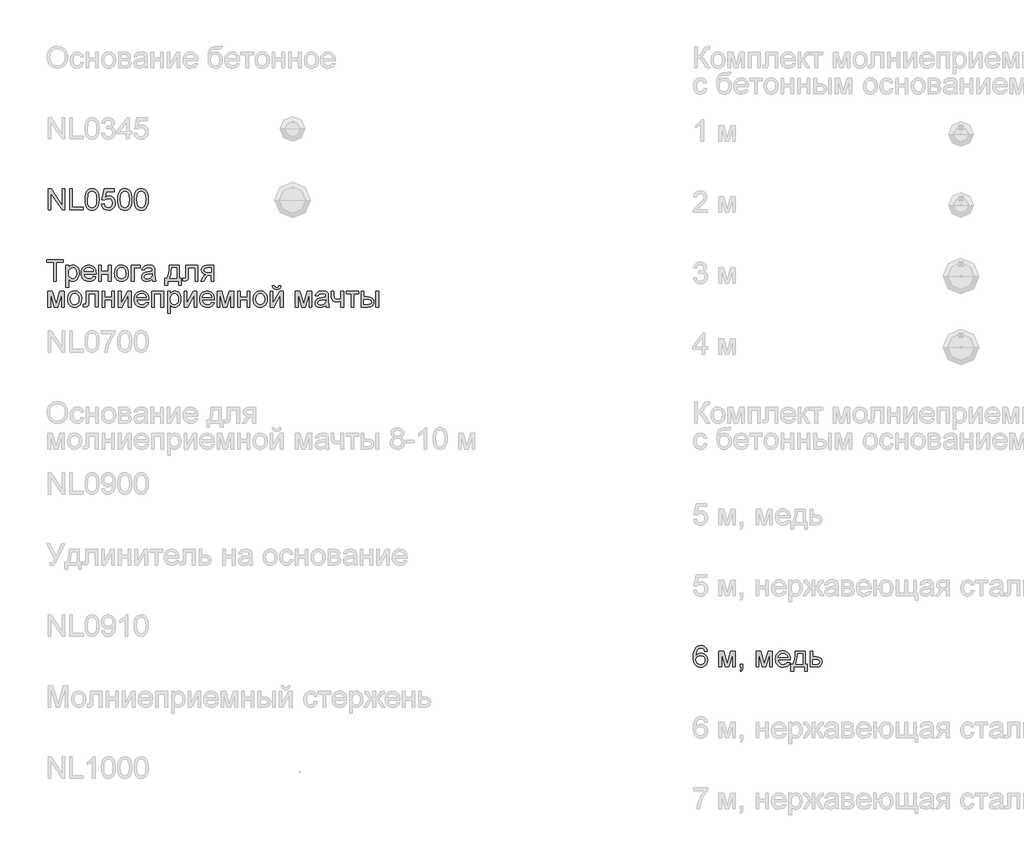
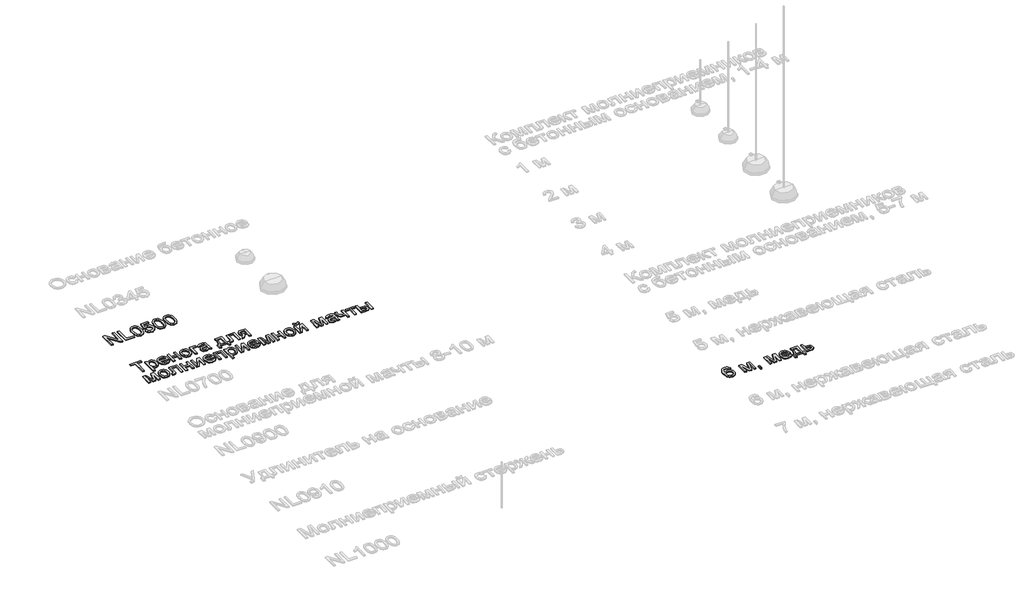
# One storey, part 55 of 124: 3 proxies.
"""IFC4 building model written with IfcOpenShell, lengths in millimetres."""

from ifc_helpers import new_model, si_unit, origin, origin_with_axes, place, context, project, spatial, polyline, outline, extrude, element, save

model = new_model("IFC4")

# Units and contexts
model_context = context("Model", 3, world=origin())
ifc_project = project(units=[si_unit("LENGTHUNIT", "METRE", prefix="MILLI")], contexts=[model_context])

# Site, building, storey
site = spatial("IfcSite", under=ifc_project)
building = spatial("IfcBuilding", under=site)
storey = spatial("IfcBuildingStorey", under=building, Name="Этаж 01", Elevation=0.0)

# Proxies
placement = place(None, origin())
element("IfcBuildingElementProxy", 1, Name="300", ObjectType="300", at=placement, inside=storey, context=model_context, shape_type="SweptSolid", body=[
    extrude(outline(polyline([(1299.8220677, -57074.498362), (1299.8220677, -56773.1294316), (1340.1419344, -56773.1294316), (1497.5954283, -57011.8848464), (1497.5954283, -56773.1294316), (1535.2665446, -56773.1294316), (1535.2665446, -57074.498362), (1494.9466779, -57074.498362), (1337.493184, -56835.6693707), (1337.493184, -57074.498362), (1299.8220677, -57074.498362)])), origin_with_axes(), (0.0, 0.0, 1.0), 20.0),
    extrude(outline(polyline([(1601.1909981, -57074.498362), (1601.1909981, -56773.1294316), (1638.8621144, -56773.1294316), (1638.8621144, -57036.8272457), (1789.5465797, -57036.8272457), (1789.5465797, -57074.498362), (1601.1909981, -57074.498362)])), origin_with_axes(), (0.0, 0.0, 1.0), 20.0),
    extrude(outline(polyline([(1817.7999169, -56926.2419179), (1820.5682289, -56878.0033913), (1828.873165, -56839.5321317), (1842.6319516, -56810.2395278), (1861.7618153, -56789.5369685), (1886.400712, -56777.2313158), (1916.6865972, -56773.1294316), (1939.8999511, -56775.5574527), (1960.6852838, -56782.8415162), (1978.0677081, -56794.6965135), (1991.0723366, -56810.8373361), (2000.8947859, -56831.1260281), (2008.7306724, -56855.4246339), (2013.8626262, -56886.2807362), (2015.5732775, -56926.2419179), (2012.8325566, -56974.2045331), (2004.6103941, -57012.5838222), (1990.9343809, -57041.9040172), (1971.8321083, -57062.68935), (1947.1380294, -57075.0777761), (1916.6865972, -57079.2072515), (1895.9380527, -57077.4138268), (1877.5439529, -57072.0335526), (1861.5042979, -57063.066429), (1847.8190877, -57050.5124559), (1834.6857005, -57027.8187353), (1825.3047096, -56999.5424055), (1819.6761151, -56965.6834664), (1817.7999169, -56926.2419179)]), holes=[polyline([(1855.4710332, -56926.1683415), (1859.8856172, -56985.4249339), (1865.4038471, -57005.6929326), (1873.129369, -57019.7207329), (1892.8478439, -57036.0822847), (1916.6865972, -57041.5361352), (1940.5253505, -57036.0638906), (1960.2438254, -57019.6471565), (1967.9693473, -57005.5963636), (1973.4875773, -56985.3329634), (1977.9021612, -56926.1683415), (1973.6347301, -56868.2453214), (1968.3004411, -56848.0440013), (1960.8324366, -56833.682808), (1941.1507499, -56816.5211129), (1916.2451388, -56810.8005479), (1892.6639029, -56815.8405312), (1873.7179802, -56830.9604812), (1865.7349409, -56846.595466), (1860.0327699, -56867.6751043), (1855.4710332, -56926.1683415)])]), origin_with_axes(), (0.0, 0.0, 1.0), 20.0),
    extrude(outline(polyline([(2048.5355043, -56994.4472399), (2086.2066206, -56989.7383503), (2093.1228021, -57012.353896), (2105.1893315, -57028.5499008), (2122.3510266, -57038.2895766), (2144.552705, -57041.5361352), (2171.5552435, -57037.0203837), (2191.7887532, -57023.4731293), (2204.4254997, -57002.4578703), (2208.6377486, -56975.5381053), (2204.6922142, -56950.1910358), (2192.855611, -56930.8036547), (2173.0359685, -56918.4980019), (2145.1413162, -56914.3961177), (2126.8667781, -56916.0331926), (2112.0687248, -56920.9444172), (2090.9155101, -56937.9405654), (2053.2443938, -56933.2316759), (2086.2066206, -56777.8383211), (2232.1821963, -56777.8383211), (2232.1821963, -56815.5094374), (2116.6672498, -56815.5094374), (2100.5540184, -56898.5036155), (2127.4645863, -56882.1696549), (2155.6627413, -56876.7250014), (2174.0085565, -56878.41266), (2190.8598512, -56883.475636), (2206.2166252, -56891.9139293), (2220.0788786, -56903.7275398), (2231.5544976, -56918.1944993), (2239.7513683, -56934.5928392), (2244.6694907, -56952.9225596), (2246.3088649, -56973.1836605), (2240.4043589, -57010.8547768), (2233.0237263, -57027.6485899), (2222.6908408, -57043.0812396), (2207.0374619, -57058.8863698), (2188.7721208, -57070.1757486), (2167.8948176, -57076.9493758), (2144.4055522, -57079.2072515), (2107.4058206, -57073.4039131), (2091.7271498, -57066.14974), (2077.9292757, -57055.9938976), (2066.4490582, -57043.4422238), (2057.7233571, -57029.0005562), (2048.5355043, -56994.4472399)])), origin_with_axes(), (0.0, 0.0, 1.0), 20.0),
    extrude(outline(polyline([(2279.2710917, -56926.2419179), (2282.0394037, -56878.0033913), (2290.3443397, -56839.5321317), (2304.1031263, -56810.2395278), (2323.2329901, -56789.5369685), (2347.8718867, -56777.2313158), (2378.157772, -56773.1294316), (2401.3711259, -56775.5574527), (2422.1564586, -56782.8415162), (2439.5388829, -56794.6965135), (2452.5435114, -56810.8373361), (2462.3659607, -56831.1260281), (2470.2018471, -56855.4246339), (2475.333801, -56886.2807362), (2477.0444523, -56926.2419179), (2474.3037314, -56974.2045331), (2466.0815688, -57012.5838222), (2452.4055556, -57041.9040172), (2433.303283, -57062.68935), (2408.6092041, -57075.0777761), (2378.157772, -57079.2072515), (2357.4092274, -57077.4138268), (2339.0151277, -57072.0335526), (2322.9754727, -57063.066429), (2309.2902625, -57050.5124559), (2296.1568752, -57027.8187353), (2286.7758844, -56999.5424055), (2281.1472898, -56965.6834664), (2279.2710917, -56926.2419179)]), holes=[polyline([(2316.942208, -56926.1683415), (2321.3567919, -56985.4249339), (2326.8750218, -57005.6929326), (2334.6005437, -57019.7207329), (2354.3190187, -57036.0822847), (2378.157772, -57041.5361352), (2401.9965252, -57036.0638906), (2421.7150002, -57019.6471565), (2429.4405221, -57005.5963636), (2434.958752, -56985.3329634), (2439.373336, -56926.1683415), (2435.1059048, -56868.2453214), (2429.7716159, -56848.0440013), (2422.3036114, -56833.682808), (2402.6219246, -56816.5211129), (2377.7163136, -56810.8005479), (2354.1350777, -56815.8405312), (2335.1891549, -56830.9604812), (2327.2061156, -56846.595466), (2321.5039447, -56867.6751043), (2316.942208, -56926.1683415)])]), origin_with_axes(), (0.0, 0.0, 1.0), 20.0),
    extrude(outline(polyline([(2510.006679, -56926.2419179), (2512.774991, -56878.0033913), (2521.0799271, -56839.5321317), (2534.8387137, -56810.2395278), (2553.9685775, -56789.5369685), (2578.6074741, -56777.2313158), (2608.8933593, -56773.1294316), (2632.1067132, -56775.5574527), (2652.892046, -56782.8415162), (2670.2744702, -56794.6965135), (2683.2790988, -56810.8373361), (2693.101548, -56831.1260281), (2700.9374345, -56855.4246339), (2706.0693884, -56886.2807362), (2707.7800396, -56926.2419179), (2705.0393188, -56974.2045331), (2696.8171562, -57012.5838222), (2683.141143, -57041.9040172), (2664.0388704, -57062.68935), (2639.3447915, -57075.0777761), (2608.8933593, -57079.2072515), (2588.1448148, -57077.4138268), (2569.750715, -57072.0335526), (2553.7110601, -57063.066429), (2540.0258498, -57050.5124559), (2526.8924626, -57027.8187353), (2517.5114717, -56999.5424055), (2511.8828772, -56965.6834664), (2510.006679, -56926.2419179)]), holes=[polyline([(2547.6777953, -56926.1683415), (2552.0923793, -56985.4249339), (2557.6106092, -57005.6929326), (2565.3361311, -57019.7207329), (2585.054606, -57036.0822847), (2608.8933593, -57041.5361352), (2632.7321126, -57036.0638906), (2652.4505876, -57019.6471565), (2660.1761095, -57005.5963636), (2665.6943394, -56985.3329634), (2670.1089233, -56926.1683415), (2665.8414922, -56868.2453214), (2660.5072033, -56848.0440013), (2653.0391988, -56833.682808), (2633.357512, -56816.5211129), (2608.4519009, -56810.8005479), (2584.870665, -56815.8405312), (2565.9247423, -56830.9604812), (2557.941703, -56846.595466), (2552.2395321, -56867.6751043), (2547.6777953, -56926.1683415)])]), origin_with_axes(), (0.0, 0.0, 1.0), 20.0),
])
element("IfcBuildingElementProxy", 2, Name="300", ObjectType="300", at=placement, inside=storey, context=model_context, shape_type="SweptSolid", body=[
    extrude(outline(polyline([(1375.1643003, -58074.498362), (1375.1643003, -57810.8005479), (1276.27762, -57810.8005479), (1276.27762, -57773.1294316), (1511.7220969, -57773.1294316), (1511.7220969, -57810.8005479), (1412.8354166, -57810.8005479), (1412.8354166, -58074.498362), (1375.1643003, -58074.498362)])), origin_with_axes(), (0.0, 0.0, 1.0), 20.0),
    extrude(outline(polyline([(1549.3932132, -58159.2583737), (1549.3932132, -57853.1805537), (1587.0643295, -57853.1805537), (1587.0643295, -57890.115906), (1599.3515882, -57871.8965502), (1613.1103748, -57858.8827246), (1629.1500298, -57851.0744293), (1648.2798935, -57848.4716642), (1673.7557217, -57852.1136959), (1696.0309765, -57863.0397912), (1714.1675589, -57880.5877623), (1727.2273697, -57904.0954218), (1735.1184385, -57931.8521184), (1737.7487948, -57962.1472007), (1734.7781476, -57994.3644664), (1725.8662063, -58023.1788237), (1711.2980793, -58047.1279416), (1691.3588752, -58064.7494891), (1668.1363242, -58075.5928109), (1643.7181568, -58079.2072515), (1626.4001119, -58076.7884274), (1610.939871, -58069.5319551), (1597.7053162, -58058.5782687), (1587.0643295, -58045.0678024), (1587.0643295, -58159.2583737), (1549.3932132, -58159.2583737)]), holes=[polyline([(1587.0643295, -57965.6052914), (1591.1386226, -57999.3768586), (1603.3615019, -58022.9948827), (1621.3969167, -58036.9008221), (1642.9088164, -58041.5361352), (1664.770204, -58036.7352752), (1683.2654713, -58022.3326951), (1695.8746267, -57997.8501483), (1700.0776784, -57962.8093883), (1695.9757942, -57929.2217621), (1683.6701415, -57905.2726442), (1665.6623178, -57890.9252464), (1644.4539208, -57886.1427805), (1623.1627503, -57891.2287491), (1604.4651479, -57906.4866548), (1591.4145341, -57931.4382511), (1587.0643295, -57965.6052914)])]), origin_with_axes(), (0.0, 0.0, 1.0), 20.0),
    extrude(outline(polyline([(1935.080697, -58008.5739085), (1972.0160493, -58013.282798), (1958.7079181, -58041.1130709), (1937.4719299, -58061.9167978), (1908.7863314, -58074.8846381), (1873.129369, -58079.2072515), (1849.7550667, -58077.3425497), (1828.9283473, -58071.7484441), (1810.6492106, -58062.4249348), (1794.9176568, -58049.3720217), (1782.2671147, -58032.9529884), (1773.2310132, -58013.5311184), (1767.8093523, -57991.1064115), (1766.002132, -57965.6788678), (1767.8277464, -57939.3891007), (1773.3045896, -57916.2171336), (1782.4326616, -57896.1629663), (1795.2119624, -57879.226599), (1810.9021295, -57865.771315), (1828.7628004, -57856.1603979), (1848.793975, -57850.3938476), (1870.9956534, -57848.4716642), (1892.4822612, -57850.3892491), (1911.9133283, -57856.1420038), (1929.2888548, -57865.7299283), (1944.6088406, -57879.1530226), (1957.1145292, -57896.0526017), (1966.0471639, -57916.0699808), (1971.4067447, -57939.2051598), (1973.1932717, -57965.4581386), (1972.9725425, -57975.6116817), (1803.6732483, -57975.6116817), (1810.1939567, -58003.8098366), (1825.3414978, -58024.5399871), (1847.2028854, -58037.2870982), (1873.865133, -58041.5361352), (1893.9147017, -58039.5679666), (1910.8004853, -58033.6634605), (1924.5224837, -58023.4547352), (1935.080697, -58008.5739085)]), holes=[polyline([(1803.6732483, -57937.9405654), (1935.5221554, -57937.9405654), (1930.4269897, -57918.0381495), (1920.4389936, -57903.8011162), (1898.4764384, -57890.5573644), (1870.8485006, -57886.1427805), (1845.4554459, -57889.6652506), (1824.458581, -57900.2326609), (1809.8628629, -57916.7045772), (1803.6732483, -57937.9405654)])]), origin_with_axes(), (0.0, 0.0, 1.0), 20.0),
    extrude(outline(polyline([(2010.864388, -57853.1805537), (2048.5355043, -57853.1805537), (2048.5355043, -57937.9405654), (2147.4221846, -57937.9405654), (2147.4221846, -57853.1805537), (2185.0933009, -57853.1805537), (2185.0933009, -58074.498362), (2147.4221846, -58074.498362), (2147.4221846, -57975.6116817), (2048.5355043, -57975.6116817), (2048.5355043, -58074.498362), (2010.864388, -58074.498362), (2010.864388, -57853.1805537)])), origin_with_axes(), (0.0, 0.0, 1.0), 20.0),
    extrude(outline(polyline([(2232.1821963, -57963.8394579), (2234.2193428, -57935.1768519), (2240.3307825, -57910.4781745), (2250.5165152, -57889.7434255), (2264.776541, -57872.972605), (2279.1331359, -57862.2534434), (2294.9796528, -57854.5968994), (2312.3160919, -57850.002973), (2331.142453, -57848.4716642), (2351.9254864, -57850.336366), (2370.7173586, -57855.9304716), (2387.5180695, -57865.2539809), (2402.327619, -57878.306894), (2414.4148418, -57894.6477523), (2423.0485724, -57913.8350977), (2428.2288108, -57935.8689299), (2429.9555569, -57960.7492491), (2426.9021363, -57998.8066415), (2417.7418746, -58027.7773486), (2402.7414863, -58049.4731893), (2382.1676857, -58065.7059823), (2357.7311242, -58075.8319342), (2331.142453, -58079.2072515), (2310.0559169, -58077.3494475), (2291.0893007, -58071.7760352), (2274.2426046, -58062.4870149), (2259.5158285, -58049.4823863), (2247.5573644, -58032.9828788), (2239.0156043, -58013.2092216), (2233.8905483, -57990.1614146), (2232.1821963, -57963.8394579)]), holes=[polyline([(2269.8533126, -57963.7658815), (2274.2127142, -57997.8593454), (2287.2909191, -58022.1487541), (2306.9726059, -58036.6892899), (2331.142453, -58041.5361352), (2355.2019355, -58036.6616988), (2374.846834, -58022.0383895), (2387.9250389, -57997.427084), (2392.2844406, -57962.5886591), (2387.8974478, -57929.4884766), (2374.7364694, -57905.5301616), (2355.0639797, -57890.9896258), (2331.142453, -57886.1427805), (2306.9726059, -57890.9712317), (2287.2909191, -57905.4565852), (2274.2127142, -57929.6908117), (2269.8533126, -57963.7658815)])]), origin_with_axes(), (0.0, 0.0, 1.0), 20.0),
    extrude(outline(polyline([(2472.3355627, -57853.1805537), (2594.7666907, -57853.1805537), (2594.7666907, -57890.85167), (2510.006679, -57890.85167), (2510.006679, -58074.498362), (2472.3355627, -58074.498362), (2472.3355627, -57853.1805537)])), origin_with_axes(), (0.0, 0.0, 1.0), 20.0),
    extrude(outline(polyline([(2764.2867141, -58046.2450248), (2746.2880875, -58061.6776745), (2727.756032, -58071.7760352), (2708.2674833, -58077.3494475), (2687.3993771, -58079.2072515), (2655.9178754, -58074.7374853), (2632.6953244, -58061.3281866), (2618.3755178, -58040.9659181), (2613.6022489, -58015.6372428), (2615.4048706, -58000.0206521), (2620.812736, -57985.8388012), (2629.1544602, -57973.6986953), (2639.7586587, -57964.2073398), (2666.1357978, -57951.8465048), (2698.7301426, -57946.1811221), (2737.2473874, -57940.2214338), (2764.0659849, -57933.2316759), (2764.2867141, -57924.8439664), (2761.693146, -57908.0317592), (2753.9124418, -57897.0320875), (2736.5116235, -57888.8651072), (2712.2682, -57886.1427805), (2689.8273983, -57887.9545993), (2674.1556253, -57893.3900558), (2663.4686533, -57903.4424313), (2655.9822547, -57919.1050072), (2618.3111384, -57914.3961177), (2624.8502409, -57893.794726), (2634.6083108, -57877.6079182), (2648.4958561, -57865.228689), (2667.4233848, -57856.0500333), (2690.5723593, -57850.3662564), (2717.1242423, -57848.4716642), (2742.5908734, -57850.1455272), (2762.7783979, -57855.1671165), (2777.9995155, -57862.7178944), (2788.5669258, -57871.9793237), (2795.5750778, -57883.4296508), (2800.1184204, -57897.5471223), (2801.9578304, -57930.5093491), (2801.9578304, -57977.3775153), (2803.8708168, -58042.8237222), (2811.3756095, -58074.498362), (2773.7044932, -58074.498362), (2764.2867141, -58046.2450248)]), holes=[polyline([(2764.2867141, -57970.9027922), (2703.5126085, -57982.4542868), (2671.1022047, -57988.5611279), (2656.4237131, -57998.4939418), (2651.2733652, -58012.9884924), (2654.0784654, -58024.1904992), (2662.493766, -58033.3691549), (2676.3353261, -58039.4943902), (2695.4192046, -58041.5361352), (2715.6527143, -58039.282858), (2733.5317793, -58032.5230264), (2748.0263299, -58022.5626213), (2758.1062966, -58010.707624), (2762.5760628, -57998.4939418), (2764.0659849, -57981.57137), (2764.2867141, -57970.9027922)])]), origin_with_axes(), (0.0, 0.0, 1.0), 20.0),
    extrude(outline(polyline([(3004.4400805, -57853.1805537), (3145.7067667, -57853.1805537), (3145.7067667, -58036.8272457), (3173.9601039, -58036.8272457), (3173.9601039, -58135.713926), (3136.2889876, -58135.713926), (3136.2889876, -58074.498362), (2980.8956329, -58074.498362), (2980.8956329, -58135.713926), (2943.2245165, -58135.713926), (2943.2245165, -58036.8272457), (2966.7689642, -58036.8272457), (2983.8846741, -58005.897567), (2995.8684301, -57964.979892), (3002.7202322, -57914.074221), (3004.4400805, -57853.1805537)]), holes=[polyline([(3037.4023073, -57890.85167), (3034.3120986, -57936.9748752), (3028.5731394, -57976.6785395), (3020.1854299, -58009.962663), (3009.1489701, -58036.8272457), (3108.0356504, -58036.8272457), (3108.0356504, -57890.85167), (3037.4023073, -57890.85167)])]), origin_with_axes(), (0.0, 0.0, 1.0), 20.0),
    extrude(outline(polyline([(3235.1756679, -57853.1805537), (3404.6956913, -57853.1805537), (3404.6956913, -58074.2776328), (3367.024575, -58074.2776328), (3367.024575, -57890.85167), (3272.8467842, -57890.85167), (3272.8467842, -57996.4338026), (3270.3083985, -58045.1413788), (3265.5535237, -58056.1686416), (3256.3656708, -58065.7059823), (3242.4229432, -58072.3002671), (3223.4034441, -58074.498362), (3192.7956621, -58072.5853756), (3192.7956621, -58036.8272457), (3209.6446575, -58036.8272457), (3226.6775938, -58034.5095891), (3233.4834107, -58027.1519492), (3235.1756679, -57994.3000871), (3235.1756679, -57853.1805537)])), origin_with_axes(), (0.0, 0.0, 1.0), 20.0),
    extrude(outline(polyline([(3630.7223891, -57853.1805537), (3630.7223891, -58074.498362), (3593.0512728, -58074.498362), (3593.0512728, -57989.7383503), (3572.5234575, -57989.7383503), (3544.5644259, -57994.5208163), (3533.3992073, -58004.9502708), (3518.2976514, -58026.6737026), (3488.2784806, -58074.498362), (3444.7212524, -58074.498362), (3482.5395215, -58014.018562), (3499.2413641, -57992.3135243), (3514.6188315, -57982.675016), (3488.8670918, -57974.7839472), (3470.7672976, -57959.7927559), (3460.0619316, -57939.8535518), (3456.4934762, -57917.1184445), (3461.3679127, -57891.3299166), (3475.991222, -57870.9124659), (3499.8483693, -57857.6135317), (3532.42432, -57853.1805537), (3630.7223891, -57853.1805537)]), holes=[polyline([(3593.0512728, -57890.85167), (3543.3872035, -57890.85167), (3517.7366314, -57893.0313708), (3503.1777014, -57899.5704733), (3496.4178697, -57909.0342376), (3494.1645925, -57919.987924), (3497.4847275, -57934.3445189), (3507.4451326, -57944.3049239), (3525.8484294, -57950.1266565), (3554.4972397, -57952.067234), (3593.0512728, -57952.067234), (3593.0512728, -57890.85167)])]), origin_with_axes(), (0.0, 0.0, 1.0), 20.0),
    extrude(outline(polyline([(1295.1131782, -58219.1050072), (1359.9339857, -58219.1050072), (1409.8923607, -58396.2769761), (1463.7502847, -58219.1050072), (1525.8487655, -58219.1050072), (1525.8487655, -58440.4228155), (1488.1776492, -58440.4228155), (1488.1776492, -58262.2207771), (1434.0254195, -58440.4228155), (1384.5820794, -58440.4228155), (1332.7842945, -58253.6859148), (1332.7842945, -58440.4228155), (1295.1131782, -58440.4228155), (1295.1131782, -58219.1050072)])), origin_with_axes(), (0.0, 0.0, 1.0), 20.0),
    extrude(outline(polyline([(1572.9376609, -58329.7639114), (1574.9748075, -58301.1013054), (1581.0862471, -58276.402628), (1591.2719798, -58255.667879), (1605.5320057, -58238.8970586), (1619.8886005, -58228.1778969), (1635.7351175, -58220.5213529), (1653.0715565, -58215.9274265), (1671.8979176, -58214.3961177), (1692.6809511, -58216.2608196), (1711.4728232, -58221.8549252), (1728.2735341, -58231.1784345), (1743.0830837, -58244.2313475), (1755.1703065, -58260.5722059), (1763.8040371, -58279.7595512), (1768.9842754, -58301.7933834), (1770.7110215, -58326.6737026), (1767.657601, -58364.731095), (1758.4973393, -58393.7018022), (1743.4969509, -58415.3976428), (1722.9231503, -58431.6304359), (1698.4865888, -58441.7563878), (1671.8979176, -58445.1317051), (1650.8113815, -58443.273901), (1631.8447654, -58437.7004888), (1614.9980693, -58428.4114684), (1600.2712932, -58415.4068399), (1588.312829, -58398.9073324), (1579.771069, -58379.1336751), (1574.6460129, -58356.0858681), (1572.9376609, -58329.7639114)]), holes=[polyline([(1610.6087772, -58329.690335), (1614.9681789, -58363.7837989), (1628.0463838, -58388.0732076), (1647.7280705, -58402.6137435), (1671.8979176, -58407.4605888), (1695.9574001, -58402.5861523), (1715.6022986, -58387.962843), (1728.6805036, -58363.3515375), (1733.0399052, -58328.5131126), (1728.6529124, -58295.4129301), (1715.491934, -58271.4546152), (1695.8194444, -58256.9140793), (1671.8979176, -58252.067234), (1647.7280705, -58256.8956852), (1628.0463838, -58271.3810388), (1614.9681789, -58295.6152652), (1610.6087772, -58329.690335)])]), origin_with_axes(), (0.0, 0.0, 1.0), 20.0),
    extrude(outline(polyline([(1831.9265855, -58219.1050072), (2001.4466089, -58219.1050072), (2001.4466089, -58440.2020863), (1963.7754926, -58440.2020863), (1963.7754926, -58256.7761235), (1869.5977018, -58256.7761235), (1869.5977018, -58362.3582562), (1867.0593161, -58411.0658323), (1862.3044413, -58422.0930951), (1853.1165884, -58431.6304359), (1839.1738608, -58438.2247206), (1820.1543617, -58440.4228155), (1789.5465797, -58438.5098292), (1789.5465797, -58402.7516992), (1806.3955751, -58402.7516992), (1823.4285114, -58400.4340427), (1830.2343283, -58393.0764028), (1831.9265855, -58360.2245406), (1831.9265855, -58219.1050072)])), origin_with_axes(), (0.0, 0.0, 1.0), 20.0),
    extrude(outline(polyline([(2057.9532834, -58219.1050072), (2095.6243997, -58219.1050072), (2095.6243997, -58303.8650189), (2194.51108, -58303.8650189), (2194.51108, -58219.1050072), (2232.1821963, -58219.1050072), (2232.1821963, -58440.4228155), (2194.51108, -58440.4228155), (2194.51108, -58341.5361352), (2095.6243997, -58341.5361352), (2095.6243997, -58440.4228155), (2057.9532834, -58440.4228155), (2057.9532834, -58219.1050072)])), origin_with_axes(), (0.0, 0.0, 1.0), 20.0),
    extrude(outline(polyline([(2288.6888707, -58219.1050072), (2326.359987, -58219.1050072), (2326.359987, -58387.8892666), (2418.919097, -58219.1050072), (2467.6266732, -58219.1050072), (2467.6266732, -58440.4228155), (2429.9555569, -58440.4228155), (2429.9555569, -58272.6686257), (2337.9850581, -58440.4228155), (2288.6888707, -58440.4228155), (2288.6888707, -58219.1050072)])), origin_with_axes(), (0.0, 0.0, 1.0), 20.0),
    extrude(outline(polyline([(2679.085244, -58374.498362), (2716.0205963, -58379.2072515), (2702.7124652, -58407.0375245), (2681.476477, -58427.8412513), (2652.7908784, -58440.8090916), (2617.133916, -58445.1317051), (2593.7596138, -58443.2670032), (2572.9328943, -58437.6728976), (2554.6537577, -58428.3493883), (2538.9222038, -58415.2964753), (2526.2716617, -58398.877442), (2517.2355602, -58379.4555719), (2511.8138993, -58357.030865), (2510.006679, -58331.6033214), (2511.8322934, -58305.3135543), (2517.3091366, -58282.1415871), (2526.4372086, -58262.0874199), (2539.2165094, -58245.1510525), (2554.9066765, -58231.6957685), (2572.7673474, -58222.0848514), (2592.798522, -58216.3183011), (2615.0002005, -58214.3961177), (2636.4868082, -58216.3137026), (2655.9178754, -58222.0664573), (2673.2934018, -58231.6543818), (2688.6133877, -58245.0774761), (2701.1190763, -58261.9770553), (2710.051711, -58281.9944343), (2715.4112918, -58305.1296133), (2717.1978187, -58331.3825922), (2716.9770895, -58341.5361352), (2547.6777953, -58341.5361352), (2554.1985037, -58369.7342902), (2569.3460448, -58390.4644406), (2591.2074324, -58403.2115517), (2617.86968, -58407.4605888), (2637.9192488, -58405.4924201), (2654.8050323, -58399.5879141), (2668.5270307, -58389.3791887), (2679.085244, -58374.498362)]), holes=[polyline([(2547.6777953, -58303.8650189), (2679.5267024, -58303.8650189), (2674.4315368, -58283.962603), (2664.4435406, -58269.7255698), (2642.4809855, -58256.4818179), (2614.8530477, -58252.067234), (2589.4599929, -58255.5897041), (2568.4631281, -58266.1571144), (2553.8674099, -58282.6290308), (2547.6777953, -58303.8650189)])]), origin_with_axes(), (0.0, 0.0, 1.0), 20.0),
    extrude(outline(polyline([(2754.868935, -58219.1050072), (2924.3889584, -58219.1050072), (2924.3889584, -58440.4228155), (2886.7178421, -58440.4228155), (2886.7178421, -58256.7761235), (2792.5400513, -58256.7761235), (2792.5400513, -58440.4228155), (2754.868935, -58440.4228155), (2754.868935, -58219.1050072)])), origin_with_axes(), (0.0, 0.0, 1.0), 20.0),
    extrude(outline(polyline([(2980.8956329, -58525.1828272), (2980.8956329, -58219.1050072), (3018.5667492, -58219.1050072), (3018.5667492, -58256.0403596), (3030.8540078, -58237.8210037), (3044.6127944, -58224.8071782), (3060.6524494, -58216.9988828), (3079.7823132, -58214.3961177), (3105.2581413, -58218.0381495), (3127.5333961, -58228.9642447), (3145.6699785, -58246.5122159), (3158.7297893, -58270.0198754), (3166.6208581, -58297.7765719), (3169.2512144, -58328.0716542), (3166.2805673, -58360.2889199), (3157.3686259, -58389.1032772), (3142.8004989, -58413.0523951), (3122.8612948, -58430.6739427), (3099.6387438, -58441.5172645), (3075.2205764, -58445.1317051), (3057.9025315, -58442.712881), (3042.4422906, -58435.4564086), (3029.2077359, -58424.5027222), (3018.5667492, -58410.9922559), (3018.5667492, -58525.1828272), (2980.8956329, -58525.1828272)]), holes=[polyline([(3018.5667492, -58331.529745), (3022.6410423, -58365.3013121), (3034.8639215, -58388.9193362), (3052.8993364, -58402.8252756), (3074.411236, -58407.4605888), (3096.2726236, -58402.6597287), (3114.7678909, -58388.2571486), (3127.3770463, -58363.7746018), (3131.5800981, -58328.7338418), (3127.4782138, -58295.1462156), (3115.1725611, -58271.1970978), (3097.1647374, -58256.8496999), (3075.9563404, -58252.067234), (3054.6651699, -58257.1532026), (3035.9675675, -58272.4111083), (3022.9169538, -58297.3627047), (3018.5667492, -58331.529745)])]), origin_with_axes(), (0.0, 0.0, 1.0), 20.0),
    extrude(outline(polyline([(3211.6312202, -58219.1050072), (3249.3023365, -58219.1050072), (3249.3023365, -58387.8892666), (3341.8614465, -58219.1050072), (3390.5690227, -58219.1050072), (3390.5690227, -58440.4228155), (3352.8979064, -58440.4228155), (3352.8979064, -58272.6686257), (3260.9274076, -58440.4228155), (3211.6312202, -58440.4228155), (3211.6312202, -58219.1050072)])), origin_with_axes(), (0.0, 0.0, 1.0), 20.0),
    extrude(outline(polyline([(3602.0275935, -58374.498362), (3638.9629458, -58379.2072515), (3625.6548147, -58407.0375245), (3604.4188265, -58427.8412513), (3575.7332279, -58440.8090916), (3540.0762655, -58445.1317051), (3516.7019633, -58443.2670032), (3495.8752438, -58437.6728976), (3477.5961072, -58428.3493883), (3461.8645533, -58415.2964753), (3449.2140112, -58398.877442), (3440.1779097, -58379.4555719), (3434.7562488, -58357.030865), (3432.9490285, -58331.6033214), (3434.7746429, -58305.3135543), (3440.2514861, -58282.1415871), (3449.3795581, -58262.0874199), (3462.1588589, -58245.1510525), (3477.849026, -58231.6957685), (3495.7096969, -58222.0848514), (3515.7408715, -58216.3183011), (3537.94255, -58214.3961177), (3559.4291577, -58216.3137026), (3578.8602249, -58222.0664573), (3596.2357513, -58231.6543818), (3611.5557372, -58245.0774761), (3624.0614258, -58261.9770553), (3632.9940605, -58281.9944343), (3638.3536413, -58305.1296133), (3640.1401682, -58331.3825922), (3639.919439, -58341.5361352), (3470.6201448, -58341.5361352), (3477.1408532, -58369.7342902), (3492.2883943, -58390.4644406), (3514.1497819, -58403.2115517), (3540.8120295, -58407.4605888), (3560.8615982, -58405.4924201), (3577.7473818, -58399.5879141), (3591.4693802, -58389.3791887), (3602.0275935, -58374.498362)]), holes=[polyline([(3470.6201448, -58303.8650189), (3602.4690519, -58303.8650189), (3597.3738863, -58283.962603), (3587.3858901, -58269.7255698), (3565.423335, -58256.4818179), (3537.7953972, -58252.067234), (3512.4023424, -58255.5897041), (3491.4054776, -58266.1571144), (3476.8097594, -58282.6290308), (3470.6201448, -58303.8650189)])]), origin_with_axes(), (0.0, 0.0, 1.0), 20.0),
    extrude(outline(polyline([(3677.8112845, -58219.1050072), (3742.6320921, -58219.1050072), (3792.590467, -58396.2769761), (3846.4483911, -58219.1050072), (3908.5468719, -58219.1050072), (3908.5468719, -58440.4228155), (3870.8757556, -58440.4228155), (3870.8757556, -58262.2207771), (3816.7235259, -58440.4228155), (3767.2801857, -58440.4228155), (3715.4824008, -58253.6859148), (3715.4824008, -58440.4228155), (3677.8112845, -58440.4228155), (3677.8112845, -58219.1050072)])), origin_with_axes(), (0.0, 0.0, 1.0), 20.0),
    extrude(outline(polyline([(3965.0535464, -58219.1050072), (4002.7246627, -58219.1050072), (4002.7246627, -58303.8650189), (4101.611343, -58303.8650189), (4101.611343, -58219.1050072), (4139.2824593, -58219.1050072), (4139.2824593, -58440.4228155), (4101.611343, -58440.4228155), (4101.611343, -58341.5361352), (4002.7246627, -58341.5361352), (4002.7246627, -58440.4228155), (3965.0535464, -58440.4228155), (3965.0535464, -58219.1050072)])), origin_with_axes(), (0.0, 0.0, 1.0), 20.0),
    extrude(outline(polyline([(4186.3713546, -58329.7639114), (4188.4085012, -58301.1013054), (4194.5199408, -58276.402628), (4204.7056736, -58255.667879), (4218.9656994, -58238.8970586), (4233.3222943, -58228.1778969), (4249.1688112, -58220.5213529), (4266.5052502, -58215.9274265), (4285.3316114, -58214.3961177), (4306.1146448, -58216.2608196), (4324.906517, -58221.8549252), (4341.7072278, -58231.1784345), (4356.5167774, -58244.2313475), (4368.6040002, -58260.5722059), (4377.2377308, -58279.7595512), (4382.4179691, -58301.7933834), (4384.1447153, -58326.6737026), (4381.0912947, -58364.731095), (4371.931033, -58393.7018022), (4356.9306447, -58415.3976428), (4336.3568441, -58431.6304359), (4311.9202826, -58441.7563878), (4285.3316114, -58445.1317051), (4264.2450752, -58443.273901), (4245.2784591, -58437.7004888), (4228.431763, -58428.4114684), (4213.7049869, -58415.4068399), (4201.7465228, -58398.9073324), (4193.2047627, -58379.1336751), (4188.0797067, -58356.0858681), (4186.3713546, -58329.7639114)]), holes=[polyline([(4224.042471, -58329.690335), (4228.4018726, -58363.7837989), (4241.4800775, -58388.0732076), (4261.1617643, -58402.6137435), (4285.3316114, -58407.4605888), (4309.3910938, -58402.5861523), (4329.0359924, -58387.962843), (4342.1141973, -58363.3515375), (4346.4735989, -58328.5131126), (4342.0866062, -58295.4129301), (4328.9256278, -58271.4546152), (4309.2531381, -58256.9140793), (4285.3316114, -58252.067234), (4261.1617643, -58256.8956852), (4241.4800775, -58271.3810388), (4228.4018726, -58295.6152652), (4224.042471, -58329.690335)])]), origin_with_axes(), (0.0, 0.0, 1.0), 20.0),
    extrude(outline(polyline([(4426.5247211, -58219.1050072), (4464.1958374, -58219.1050072), (4464.1958374, -58387.8892666), (4556.7549474, -58219.1050072), (4605.4625236, -58219.1050072), (4605.4625236, -58440.4228155), (4567.7914072, -58440.4228155), (4567.7914072, -58272.6686257), (4475.8209085, -58440.4228155), (4426.5247211, -58440.4228155), (4426.5247211, -58219.1050072)])), origin_with_axes(), (0.0, 0.0, 1.0), 20.0),
    extrude(outline(polyline([(4548.9558491, -58139.0538851), (4577.2091863, -58139.0538851), (4571.1299364, -58163.1777469), (4558.9254512, -58180.9556443), (4541.1475537, -58191.9093307), (4518.3480671, -58195.5605595), (4493.6080029, -58191.9369219), (4474.4229569, -58181.0660089), (4461.3079637, -58163.3157027), (4454.7780583, -58139.0538851), (4483.0313956, -58139.0538851), (4487.0045211, -58151.4607054), (4493.626397, -58160.2806762), (4502.9338115, -58165.5505858), (4514.9635527, -58167.3072223), (4528.5383984, -58165.6057681), (4538.3608476, -58160.5014054), (4544.9827235, -58151.7366169), (4548.9558491, -58139.0538851)])), origin_with_axes(), (0.0, 0.0, 1.0), 20.0),
    extrude(outline(polyline([(4779.6914365, -58219.1050072), (4844.512244, -58219.1050072), (4894.470619, -58396.2769761), (4948.3285431, -58219.1050072), (5010.4270238, -58219.1050072), (5010.4270238, -58440.4228155), (4972.7559075, -58440.4228155), (4972.7559075, -58262.2207771), (4918.6036778, -58440.4228155), (4869.1603377, -58440.4228155), (4817.3625528, -58253.6859148), (4817.3625528, -58440.4228155), (4779.6914365, -58440.4228155), (4779.6914365, -58219.1050072)])), origin_with_axes(), (0.0, 0.0, 1.0), 20.0),
    extrude(outline(polyline([(5208.2003845, -58412.1694783), (5190.2017578, -58427.602128), (5171.6697023, -58437.7004888), (5152.1811536, -58443.273901), (5131.3130475, -58445.1317051), (5099.8315457, -58440.6619388), (5076.6089948, -58427.2526401), (5062.2891881, -58406.8903717), (5057.5159192, -58381.5616963), (5059.318541, -58365.9451056), (5064.7264063, -58351.7632547), (5073.0681306, -58339.6231489), (5083.6723291, -58330.1317934), (5110.0494681, -58317.7709583), (5142.6438129, -58312.1055756), (5181.1610578, -58306.1458873), (5207.9796553, -58299.1561294), (5208.2003845, -58290.7684199), (5205.6068164, -58273.9562127), (5197.8261122, -58262.9565411), (5180.4252938, -58254.7895608), (5156.1818703, -58252.067234), (5133.7410686, -58253.8790528), (5118.0692956, -58259.3145093), (5107.3823237, -58269.3668848), (5099.8959251, -58285.0294608), (5062.2248088, -58280.3205712), (5068.7639112, -58259.7191795), (5078.5219812, -58243.5323717), (5092.4095265, -58231.1531426), (5111.3370551, -58221.9744868), (5134.4860297, -58216.29071), (5161.0379127, -58214.3961177), (5186.5045438, -58216.0699808), (5206.6920683, -58221.09157), (5221.9131858, -58228.642348), (5232.4805961, -58237.9037772), (5239.4887481, -58249.3541043), (5244.0320908, -58263.4715759), (5245.8715008, -58296.4338026), (5245.8715008, -58343.3019688), (5247.7844871, -58408.7481758), (5255.2892798, -58440.4228155), (5217.6181635, -58440.4228155), (5208.2003845, -58412.1694783)]), holes=[polyline([(5208.2003845, -58336.8272457), (5147.4262788, -58348.3787403), (5115.0158751, -58354.4855815), (5100.3373835, -58364.4183953), (5095.1870355, -58378.9129459), (5097.9921357, -58390.1149527), (5106.4074364, -58399.2936085), (5120.2489965, -58405.4188437), (5139.332875, -58407.4605888), (5159.5663847, -58405.2073115), (5177.4454497, -58398.4474799), (5191.9400003, -58388.4870749), (5202.0199669, -58376.6320776), (5206.4897332, -58364.4183953), (5207.9796553, -58347.4958236), (5208.2003845, -58336.8272457)])]), origin_with_axes(), (0.0, 0.0, 1.0), 20.0),
    extrude(outline(polyline([(5283.5426171, -58219.1050072), (5321.2137334, -58219.1050072), (5321.2137334, -58261.5585895), (5324.2671539, -58301.3634214), (5329.4634871, -58312.9333101), (5338.9456455, -58322.9213063), (5352.0422446, -58329.8190937), (5368.0818996, -58332.1183562), (5391.1297066, -58329.2672707), (5420.1004137, -58320.7140143), (5420.1004137, -58219.1050072), (5457.77153, -58219.1050072), (5457.77153, -58440.4228155), (5420.1004137, -58440.4228155), (5420.1004137, -58356.8400262), (5387.9475273, -58366.5521109), (5358.0019329, -58369.7894725), (5335.2208403, -58366.4141552), (5315.2908332, -58356.2882032), (5299.757016, -58341.2694208), (5290.164493, -58323.2156119), (5285.198086, -58302.6694024), (5283.5426171, -58280.1734184), (5283.5426171, -58219.1050072)])), origin_with_axes(), (0.0, 0.0, 1.0), 20.0),
    extrude(outline(polyline([(5495.4426463, -58219.1050072), (5674.3804487, -58219.1050072), (5674.3804487, -58256.7761235), (5603.7471057, -58256.7761235), (5603.7471057, -58440.4228155), (5566.0759894, -58440.4228155), (5566.0759894, -58256.7761235), (5495.4426463, -58256.7761235), (5495.4426463, -58219.1050072)])), origin_with_axes(), (0.0, 0.0, 1.0), 20.0),
    extrude(outline(polyline([(5914.5338152, -58219.1050072), (5952.2049315, -58219.1050072), (5952.2049315, -58440.4228155), (5914.5338152, -58440.4228155), (5914.5338152, -58219.1050072)])), origin_with_axes(), (0.0, 0.0, 1.0), 20.0),
    extrude(outline(polyline([(5707.3426755, -58219.1050072), (5745.0137918, -58219.1050072), (5745.0137918, -58299.1561294), (5791.5876524, -58299.1561294), (5831.8431397, -58303.874216), (5848.0598379, -58309.7718242), (5861.6691725, -58318.0284757), (5872.4366186, -58328.359062), (5880.1276516, -58340.4784745), (5884.7422714, -58354.3867132), (5886.280478, -58370.0837781), (5881.120933, -58397.0403313), (5865.642298, -58419.7846356), (5853.780403, -58428.8138393), (5838.8328976, -58435.2632706), (5799.6810563, -58440.4228155), (5707.3426755, -58440.4228155), (5707.3426755, -58219.1050072)]), holes=[polyline([(5745.0137918, -58402.7516992), (5783.7149777, -58402.7516992), (5813.7157544, -58400.7743335), (5833.6733527, -58394.8422363), (5844.8753594, -58384.7162844), (5848.6093617, -58370.1573545), (5845.8410496, -58357.8517017), (5837.5361136, -58346.9807888), (5819.7766103, -58339.3656315), (5788.6445964, -58336.8272457), (5745.0137918, -58336.8272457), (5745.0137918, -58402.7516992)])]), origin_with_axes(), (0.0, 0.0, 1.0), 20.0),
])
element("IfcBuildingElementProxy", 3, Name="300", ObjectType="300", at=placement, inside=storey, context=model_context, shape_type="SweptSolid", body=[
    extrude(outline(polyline([(10578.7598701, -63286.1427805), (10541.0887538, -63290.85167), (10535.0187009, -63272.1816588), (10526.8149324, -63259.4345476), (10509.7268138, -63247.6807179), (10489.0702397, -63243.7627746), (10471.5590568, -63246.043643), (10455.0779434, -63252.8862481), (10440.9236836, -63267.2980253), (10429.3629919, -63287.1360619), (10421.5546966, -63315.196261), (10418.6576258, -63354.274526), (10433.7683788, -63336.6437814), (10451.87737, -63324.218567), (10471.972924, -63316.85173), (10493.0433653, -63314.3961177), (10511.1431594, -63316.0745793), (10527.845002, -63321.1099641), (10543.148893, -63329.5022721), (10557.0548324, -63341.2515033), (10568.6109256, -63355.658682), (10576.8652779, -63372.0248322), (10581.8178892, -63390.3499541), (10583.4687597, -63410.6340476), (10580.3601568, -63437.6089949), (10571.0343482, -63462.6157736), (10556.2638861, -63483.8241706), (10536.8213227, -63499.4039731), (10513.5895747, -63508.978102), (10487.4515589, -63512.1694783), (10464.9946624, -63510.0541568), (10444.7128682, -63503.7081924), (10426.6061762, -63493.1315851), (10410.6745866, -63478.3243348), (10397.6860529, -63458.6610421), (10388.4085288, -63433.5163077), (10382.8420144, -63402.8901316), (10380.9865095, -63366.7825138), (10383.0466487, -63326.3016988), (10389.2270662, -63291.7529809), (10399.5277621, -63263.1363602), (10413.9487363, -63240.4518367), (10429.5791226, -63225.4192586), (10447.7019094, -63214.6817029), (10468.3170967, -63208.2391695), (10491.4246845, -63206.0916583), (10524.4788818, -63211.4075532), (10550.9479913, -63227.3552376), (10569.4892439, -63252.683913), (10578.7598701, -63286.1427805)]), holes=[polyline([(10418.6576258, -63410.0454364), (10420.8373267, -63426.738082), (10427.3764291, -63442.6765694), (10437.5299722, -63456.3801737), (10450.5529948, -63466.3681699), (10466.2707531, -63472.465814), (10484.508503, -63474.498362), (10509.3681288, -63470.2861132), (10528.9118598, -63457.6493666), (10541.5761975, -63437.7837389), (10545.7976434, -63411.8848464), (10541.6313798, -63387.0252206), (10529.132589, -63368.0701008), (10509.2577642, -63356.0679507), (10482.9633986, -63352.067234), (10458.140561, -63356.0679507), (10437.3828194, -63368.0701008), (10423.3389242, -63386.5653681), (10418.6576258, -63410.0454364)])]), origin_with_axes(), (0.0, 0.0, 1.0), 20.0),
    extrude(outline(polyline([(10743.571004, -63286.1427805), (10808.3918115, -63286.1427805), (10858.3501865, -63463.3147493), (10912.2081106, -63286.1427805), (10974.3065914, -63286.1427805), (10974.3065914, -63507.4605888), (10936.6354751, -63507.4605888), (10936.6354751, -63329.2585503), (10882.4832454, -63507.4605888), (10833.0399052, -63507.4605888), (10781.2421203, -63320.723688), (10781.2421203, -63507.4605888), (10743.571004, -63507.4605888), (10743.571004, -63286.1427805)])), origin_with_axes(), (0.0, 0.0, 1.0), 20.0),
    extrude(outline(polyline([(11040.2310449, -63507.4605888), (11040.2310449, -63469.7894725), (11077.9021612, -63469.7894725), (11077.9021612, -63507.4605888), (11076.209904, -63529.0092766), (11071.1331325, -63545.9778337), (11062.377541, -63558.9916592), (11049.648824, -63568.6761528), (11040.2310449, -63554.5494842), (11048.3980252, -63547.7252731), (11054.0634079, -63538.2891), (11058.9930267, -63507.4605888), (11040.2310449, -63507.4605888)])), origin_with_axes(), (0.0, 0.0, 1.0), 20.0),
    extrude(outline(polyline([(11266.2577427, -63286.1427805), (11331.0785503, -63286.1427805), (11381.0369252, -63463.3147493), (11434.8948493, -63286.1427805), (11496.9933301, -63286.1427805), (11496.9933301, -63507.4605888), (11459.3222138, -63507.4605888), (11459.3222138, -63329.2585503), (11405.1699841, -63507.4605888), (11355.726644, -63507.4605888), (11303.928859, -63320.723688), (11303.928859, -63507.4605888), (11266.2577427, -63507.4605888), (11266.2577427, -63286.1427805)])), origin_with_axes(), (0.0, 0.0, 1.0), 20.0),
    extrude(outline(polyline([(11708.4519009, -63441.5361352), (11745.3872533, -63446.2450248), (11732.0791221, -63474.0752977), (11710.8431339, -63494.8790245), (11682.1575353, -63507.8468649), (11646.5005729, -63512.1694783), (11623.1262707, -63510.3047764), (11602.2995512, -63504.7106709), (11584.0204146, -63495.3871615), (11568.2888608, -63482.3342485), (11555.6383187, -63465.9152152), (11546.6022172, -63446.4933451), (11541.1805563, -63424.0686383), (11539.373336, -63398.6410946), (11541.1989504, -63372.3513275), (11546.6757936, -63349.1793603), (11555.8038656, -63329.1251931), (11568.5831664, -63312.1888257), (11584.2733335, -63298.7335418), (11602.1340043, -63289.1226246), (11622.165179, -63283.3560744), (11644.3668574, -63281.4338909), (11665.8534652, -63283.3514758), (11685.2845323, -63289.1042305), (11702.6600588, -63298.692155), (11717.9800446, -63312.1152493), (11730.4857332, -63329.0148285), (11739.4183679, -63349.0322075), (11744.7779487, -63372.1673865), (11746.5644756, -63398.4203654), (11746.3437464, -63408.5739085), (11577.0444523, -63408.5739085), (11583.5651606, -63436.7720634), (11598.7127018, -63457.5022138), (11620.5740893, -63470.249325), (11647.2363369, -63474.498362), (11667.2859057, -63472.5301933), (11684.1716893, -63466.6256873), (11697.8936877, -63456.4169619), (11708.4519009, -63441.5361352)]), holes=[polyline([(11577.0444523, -63370.9027922), (11708.8933593, -63370.9027922), (11703.7981937, -63351.0003762), (11693.8101975, -63336.763343), (11671.8476424, -63323.5195912), (11644.2197046, -63319.1050072), (11618.8266499, -63322.6274773), (11597.829785, -63333.1948877), (11583.2340668, -63349.666804), (11577.0444523, -63370.9027922)])]), origin_with_axes(), (0.0, 0.0, 1.0), 20.0),
    extrude(outline(polyline([(11817.1978187, -63286.1427805), (11958.4645049, -63286.1427805), (11958.4645049, -63469.7894725), (11986.7178421, -63469.7894725), (11986.7178421, -63568.6761528), (11949.0467258, -63568.6761528), (11949.0467258, -63507.4605888), (11793.653371, -63507.4605888), (11793.653371, -63568.6761528), (11755.9822547, -63568.6761528), (11755.9822547, -63469.7894725), (11779.5267024, -63469.7894725), (11796.6424122, -63438.8597937), (11808.6261682, -63397.9421188), (11815.4779704, -63347.0364477), (11817.1978187, -63286.1427805)]), holes=[polyline([(11850.1600455, -63323.8138968), (11847.0698367, -63369.9371019), (11841.3308776, -63409.6407663), (11832.9431681, -63442.9248898), (11821.9067082, -63469.7894725), (11920.7933886, -63469.7894725), (11920.7933886, -63323.8138968), (11850.1600455, -63323.8138968)])]), origin_with_axes(), (0.0, 0.0, 1.0), 20.0),
    extrude(outline(polyline([(12029.0978479, -63286.1427805), (12066.7689642, -63286.1427805), (12066.7689642, -63366.1939026), (12110.1790397, -63366.1939026), (12147.8133678, -63370.9119892), (12162.9609089, -63376.8095974), (12175.6620348, -63385.066249), (12185.7052133, -63395.3968353), (12192.8789122, -63407.5162477), (12198.6178713, -63437.1215513), (12193.7342378, -63464.0781045), (12179.0833374, -63486.8224088), (12167.8514402, -63495.8516126), (12153.6902826, -63502.3010438), (12116.5801864, -63507.4605888), (12029.0978479, -63507.4605888), (12029.0978479, -63286.1427805)]), holes=[polyline([(12066.7689642, -63469.7894725), (12101.938483, -63469.7894725), (12129.22613, -63467.8121067), (12147.3719094, -63461.8800096), (12157.5530436, -63451.7540577), (12160.946755, -63437.1951277), (12158.4359604, -63424.889475), (12150.9035765, -63414.018562), (12134.762754, -63406.4034047), (12106.4266433, -63403.8650189), (12066.7689642, -63403.8650189), (12066.7689642, -63469.7894725)])]), origin_with_axes(), (0.0, 0.0, 1.0), 20.0),
])

save(model, "model.ifc")
